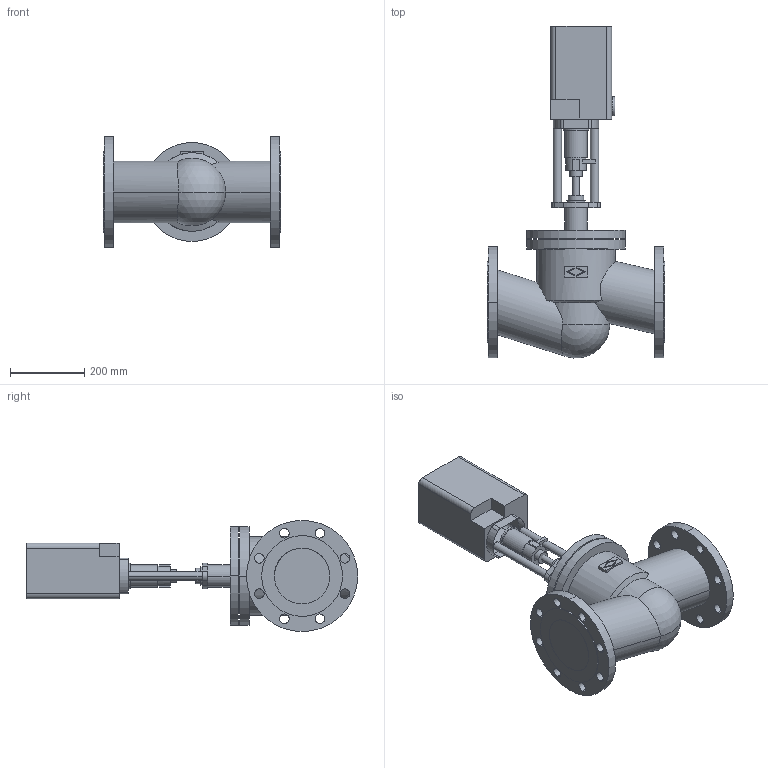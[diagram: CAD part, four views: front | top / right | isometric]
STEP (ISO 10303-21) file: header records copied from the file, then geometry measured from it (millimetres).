
FILE_DESCRIPTION(('OneSpaceDesigner STEP Export'),'2;1');
FILE_NAME('c000003124.stp','2007-01-16T10:34:16',(''),(''),'OneSpace Designer STEP processor for AP214 (Solid Model)','OneSpace Designer 14.00B 27-May-2006 (C) CoCreate Software GmbH','');
FILE_SCHEMA(('AUTOMOTIVE_DESIGN { 1 0 10303 214 1 1 1 1 }'));
Length unit declared in the file: millimetre
Products named in the file (2): 1; 2
Bounding box: 480 x 895.77 x 300 mm (x, y, z)
Volume: 27289312.1 mm3; surface area: 1055253.4 mm2
Topology: 2 solids, 2 shells, 172 faces, 430 edges, 283 vertices
Faces by surface type: cylinder 94, plane 72, cone 2, sphere 2, torus 2
Entity records: 4971 total; most frequent: CARTESIAN_POINT 1081, ORIENTED_EDGE 856, DIRECTION 714, EDGE_CURVE 428, VERTEX_POINT 283, AXIS2_PLACEMENT_3D 253, EDGE_LOOP 227, VECTOR 208
